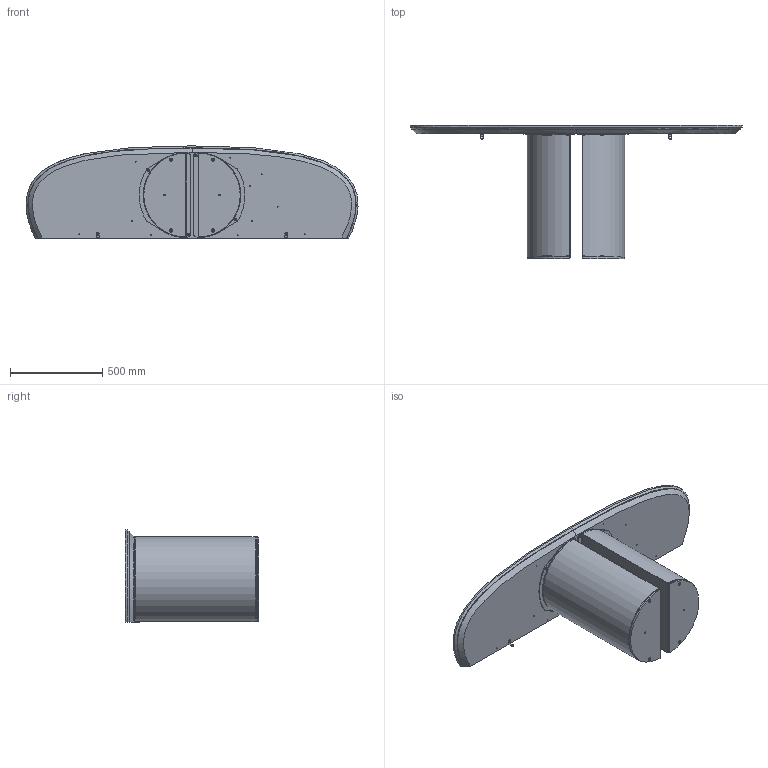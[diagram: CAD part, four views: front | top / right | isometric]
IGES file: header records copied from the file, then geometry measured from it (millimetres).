
Start section: SolidWorks IGES file using analytic representation for surfaces
Global section: file name: Y:\eforma\TECNICO\SOLIDWORKS\E-FORMA\3-CONSOLE\DORA CONSOLE\02 parts\DR80M_Dora Console_180x50x72h_Marble Shaped.IGS; native system: SolidWorks 2022; preprocessor: SolidWorks 2022; author: eforma.tech; date: 240806.114242; units: millimetre
Bounding box: 1799.73 x 723 x 500 mm (x, y, z)
Volume: 41264758.9 mm3; surface area: 7609312.1 mm2
Topology: 26 solids, 26 shells, 652 faces, 1456 edges, 826 vertices
Faces by surface type: revolution 362, plane 282, bspline 8
